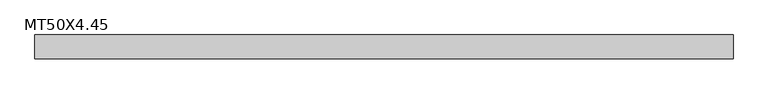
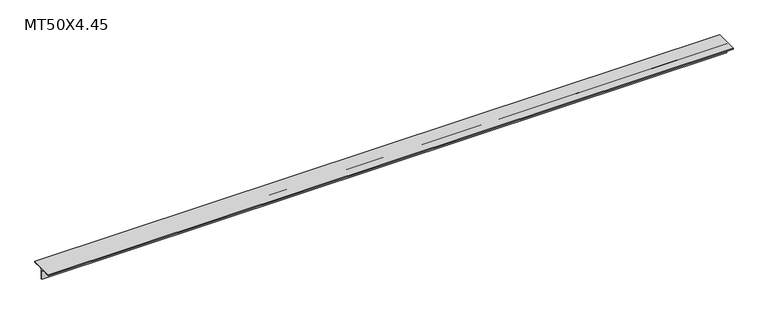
"""IFC4 building model written with IfcOpenShell, lengths in millimetres: beam geometry, M_MT-Structural Tee : MT50X4.45."""

import ifcopenshell
import ifcopenshell.guid

model = None  # the IFC model being written
_history = None  # IfcOwnerHistory: only IFC2X3 demands one
_inside = {}  # id of a spatial element -> (the spatial element, [elements in it])
_under = {}  # id of a project, library or spatial element -> (it, [spatial elements below it])
_declared = {}  # id of a project -> (the project, [libraries it declares])
_typed = {}  # id of a type object -> (the type object, [elements of that type])
_made_of = {}  # id of a material, layer set ... -> (it, [elements and type objects made of it])


def new_model(schema):
    """Start an empty IFC model of exactly this schema.

    Asked for "IFC4X3", IfcOpenShell would pick the latest addendum, in which some entities
    have other attributes; the version numbers below select the first issue.
    IFC2X3 requires an IfcOwnerHistory on every rooted entity: one is made here for all.
    """
    global model, _history
    if schema == "IFC4X3":
        model = ifcopenshell.file(schema_version=(4, 3, 0, 0))
    else:
        model = ifcopenshell.file(schema=schema)
    _inside.clear()
    _under.clear()
    _declared.clear()
    _typed.clear()
    _made_of.clear()
    _history = None
    if model.schema == "IFC2X3":
        org = make("IfcOrganization", Name="unknown")
        user = make(
            "IfcPersonAndOrganization",
            ThePerson=make("IfcPerson", FamilyName="unknown"),
            TheOrganization=org,
        )
        app = make(
            "IfcApplication",
            ApplicationDeveloper=org,
            Version="unknown",
            ApplicationFullName="unknown",
            ApplicationIdentifier="unknown",
        )
        _history = make(
            "IfcOwnerHistory",
            OwningUser=user,
            OwningApplication=app,
            ChangeAction="ADDED",
            CreationDate=0,
        )
    return model


def make(cls, **values):
    """One entity of the class cls with the attributes given. An attribute that is None is left unset."""
    return model.create_entity(
        cls, **{name: value for name, value in values.items() if value is not None}
    )


def rooted(cls, **values):
    """An entity with a GlobalId (a new one), such as an element, a storey or a relation."""
    return make(cls, GlobalId=ifcopenshell.guid.new(), OwnerHistory=_history, **values)


def si_unit(unit_type, name, prefix=None):
    """IfcSIUnit, for example si_unit("LENGTHUNIT", "METRE", prefix="MILLI")."""
    return make("IfcSIUnit", UnitType=unit_type, Prefix=prefix, Name=name)


def assignment(units):
    """IfcUnitAssignment: the units of a project."""
    return None if units is None else make("IfcUnitAssignment", Units=units)


def point(xyz):
    """IfcCartesianPoint."""
    return None if xyz is None else make("IfcCartesianPoint", Coordinates=xyz)


def direction(xyz):
    """IfcDirection."""
    return None if xyz is None else make("IfcDirection", DirectionRatios=xyz)


def frame(location, z_axis=None, x_axis=None):
    """IfcAxis2Placement3D, a coordinate frame: its origin and axes. An axis left out is left unset."""
    return make(
        "IfcAxis2Placement3D",
        Location=point(location),
        Axis=direction(z_axis),
        RefDirection=direction(x_axis),
    )


def frame_2d(location, x_axis=None):
    """IfcAxis2Placement2D, a coordinate frame in the plane: its origin and x axis."""
    return make(
        "IfcAxis2Placement2D", Location=point(location), RefDirection=direction(x_axis)
    )


def origin():
    """The frame at (0, 0, 0) with its axes left unset."""
    return frame((0.0, 0.0, 0.0))


def place(relative_to, where):
    """IfcLocalPlacement: puts the frame where relative to a parent placement (None: the world)."""
    return make(
        "IfcLocalPlacement", PlacementRelTo=relative_to, RelativePlacement=where
    )


def context(
    kind, dimensions, precision=None, world=None, true_north=None, identifier=None
):
    """IfcGeometricRepresentationContext, for example the 3D "Model" context."""
    return make(
        "IfcGeometricRepresentationContext",
        ContextIdentifier=identifier,
        ContextType=kind,
        CoordinateSpaceDimension=dimensions,
        Precision=precision,
        WorldCoordinateSystem=world,
        TrueNorth=true_north,
    )


def project(units=None, contexts=None):
    """IfcProject with its units and contexts."""
    return rooted(
        "IfcProject",
        Name="project",
        RepresentationContexts=contexts,
        UnitsInContext=assignment(units),
    )


def spatial(cls, under=None, at=None, **own):
    """A site, building, storey or space (cls), placed at a placement, below another one or the project."""
    s = rooted(cls, ObjectPlacement=at, **own)
    if under is not None:
        _under.setdefault(under.id(), (under, []))[1].append(s)
    return s


def polyline(points):
    """IfcPolyline through the points."""
    return make("IfcPolyline", Points=[point(p) for p in points])


def circle_curve(where, radius):
    """IfcCircle in the frame where."""
    return make("IfcCircle", Position=where, Radius=radius)


def trimmed(basis, trim1, trim2, sense, master):
    """IfcTrimmedCurve: the piece of a basis curve between two trims."""
    return make(
        "IfcTrimmedCurve",
        BasisCurve=basis,
        Trim1=trim1,
        Trim2=trim2,
        SenseAgreement=sense,
        MasterRepresentation=master,
    )


def segment(curve, same_sense, transition):
    """IfcCompositeCurveSegment."""
    return make(
        "IfcCompositeCurveSegment",
        Transition=transition,
        SameSense=same_sense,
        ParentCurve=curve,
    )


def composite_curve(segments, self_intersect=None):
    """IfcCompositeCurve: segments joined end to end."""
    return make("IfcCompositeCurve", Segments=segments, SelfIntersect=self_intersect)


def outline(outer, holes=None, kind="AREA"):
    """IfcArbitraryClosedProfileDef: a profile drawn as a closed curve; with holes, ...WithVoids."""
    if holes is None:
        return make("IfcArbitraryClosedProfileDef", ProfileType=kind, OuterCurve=outer)
    return make(
        "IfcArbitraryProfileDefWithVoids",
        ProfileType=kind,
        OuterCurve=outer,
        InnerCurves=holes,
    )


def extrude(swept, where, along, depth):
    """IfcExtrudedAreaSolid: the profile swept, set in the frame where, extruded along a direction by depth."""
    return make(
        "IfcExtrudedAreaSolid",
        SweptArea=swept,
        Position=where,
        ExtrudedDirection=direction(along),
        Depth=depth,
    )


def shape(context_of_items, identifier, shape_type, items):
    """IfcShapeRepresentation: the items that make up one representation, for example the "Body"."""
    return make(
        "IfcShapeRepresentation",
        ContextOfItems=context_of_items,
        RepresentationIdentifier=identifier,
        RepresentationType=shape_type,
        Items=items,
    )


def source(mapping_origin, context_of_items, identifier, shape_type, items):
    """IfcRepresentationMap: a shape defined once, which mapped items show again and again."""
    return make(
        "IfcRepresentationMap",
        MappingOrigin=mapping_origin,
        MappedRepresentation=shape(context_of_items, identifier, shape_type, items),
    )


def transform(
    local_origin,
    x_axis=None,
    y_axis=None,
    z_axis=None,
    scale=None,
    scale2=None,
    scale3=None,
    uniform=True,
):
    """IfcCartesianTransformationOperator3D, or its non-uniform kind. x_axis, y_axis, z_axis: its Axis1, 2, 3."""
    if uniform:
        return make(
            "IfcCartesianTransformationOperator3D",
            Axis1=direction(x_axis),
            Axis2=direction(y_axis),
            LocalOrigin=point(local_origin),
            Scale=scale,
            Axis3=direction(z_axis),
        )
    return make(
        "IfcCartesianTransformationOperator3DnonUniform",
        Axis1=direction(x_axis),
        Axis2=direction(y_axis),
        LocalOrigin=point(local_origin),
        Scale=scale,
        Axis3=direction(z_axis),
        Scale2=scale2,
        Scale3=scale3,
    )


def mapped(mapping_source, mapping_target):
    """IfcMappedItem: shows the shape of a source again, moved by a transform."""
    return make(
        "IfcMappedItem", MappingSource=mapping_source, MappingTarget=mapping_target
    )


def made_of(thing, what):
    """Note that an element or type object is made of a material, layer set ...; save() writes the relation."""
    if what is not None:
        _made_of.setdefault(what.id(), (what, []))[1].append(thing)
    return thing


def element(
    cls,
    number,
    at=None,
    inside=None,
    cuts=None,
    type_object=None,
    material=None,
    context=None,
    identifier="Body",
    shape_type=None,
    held_by="IfcProductDefinitionShape",
    body=None,
    shapes=None,
    **own,
):
    """One element of the class cls, such as IfcWall. Its Tag is "e" and its number.

    at: its placement. inside: the storey or other place that contains it. cuts: it is an
    opening in that element (IfcRelVoidsElement). A single representation is given by context,
    identifier, shape_type and body (its items); several are given by shapes. held_by: the class
    of the entity that holds the representations. save() writes the other relations.
    """
    e = rooted(cls, Tag="e%d" % number, ObjectPlacement=at, **own)
    if body is not None:
        shapes = [shape(context, identifier, shape_type, body)]
    if shapes is not None:
        e.Representation = make(held_by, Representations=shapes)
    if inside is not None:
        _inside.setdefault(inside.id(), (inside, []))[1].append(e)
    if cuts is not None:
        rooted(
            "IfcRelVoidsElement", RelatingBuildingElement=cuts, RelatedOpeningElement=e
        )
    if type_object is not None:
        _typed.setdefault(type_object.id(), (type_object, []))[1].append(e)
    return made_of(e, material)


def aggregate(whole, parts):
    """IfcRelAggregates: a whole, such as a stair, and the parts it consists of."""
    return rooted("IfcRelAggregates", RelatingObject=whole, RelatedObjects=parts)


def save(model, path):
    """Write the relations noted so far, then the file.

    IfcRelAggregates (storeys below a building ...), IfcRelContainedInSpatialStructure (elements
    in a storey), IfcRelDefinesByType, IfcRelAssociatesMaterial and IfcRelDeclares: one each for
    every whole, place, type object, material and project.
    """
    for whole, parts in _under.values():
        aggregate(whole, parts)
    for where, things in _inside.values():
        rooted(
            "IfcRelContainedInSpatialStructure",
            RelatedElements=things,
            RelatingStructure=where,
        )
    for kind, things in _typed.values():
        rooted("IfcRelDefinesByType", RelatedObjects=things, RelatingType=kind)
    for what, things in _made_of.values():
        rooted("IfcRelAssociatesMaterial", RelatedObjects=things, RelatingMaterial=what)
    for by, libraries in _declared.values():
        rooted("IfcRelDeclares", RelatingContext=by, RelatedDefinitions=libraries)
    model.write(path)


def mt50x4_45_f3ec78d8(model_context):
    return source(origin(), model_context, "Body", "SweptSolid", [
        extrude(outline(composite_curve([segment(polyline([(-48.25, 24.15), (48.25, 24.15), (48.25, 20.05), (11.55, 20.05)]), True, "CONTINUOUS"), segment(trimmed(circle_curve(frame_2d((11.55, 10.15)), 9.9), [point((11.55, 20.05))], [point((1.65, 10.15))], True, "CARTESIAN"), True, "CONTINUOUS"), segment(polyline([(1.65, 10.15), (1.65, -24.15), (-1.65, -24.15), (-1.65, 10.15)]), True, "CONTINUOUS"), segment(trimmed(circle_curve(frame_2d((-11.55, 10.15)), 9.9), [point((-1.65, 10.15))], [point((-11.55, 20.05))], True, "CARTESIAN"), True, "CONTINUOUS"), segment(polyline([(-11.55, 20.05), (-48.25, 20.05), (-48.25, 24.15)]), True, "CONTINUOUS")], self_intersect=False)), frame((-1410.7880678, 0.0, 0.0), z_axis=(1.0, 0.0, 0.0), x_axis=(0.0, 1.0, 0.0)), (0.0, 0.0, 1.0), 2821.5761357),
    ])


if __name__ == "__main__":
    model = new_model("IFC4")
    model_context = context("Model", 3, world=origin())
    ifc_project = project(units=[si_unit("LENGTHUNIT", "METRE", prefix="MILLI")], contexts=[model_context])
    site = spatial("IfcSite", under=ifc_project)
    building = spatial("IfcBuilding", under=site)
    placement = place(None, origin())
    mt50x4_45_shape = mt50x4_45_f3ec78d8(model_context)
    element("IfcBeam", 1, ObjectType="M_MT-Structural Tee : MT50X4.45", at=placement, inside=building, context=model_context, shape_type="MappedRepresentation", body=[
        mapped(mt50x4_45_shape, transform((0.0, 0.0, 0.0), x_axis=(1.0, 0.0, 0.0), y_axis=(0.0, 1.0, 0.0), z_axis=(0.0, 0.0, 1.0))),
    ])
    save(model, "model.ifc")
